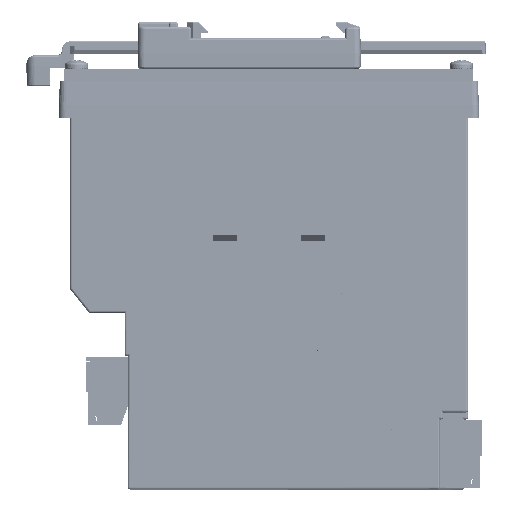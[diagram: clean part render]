
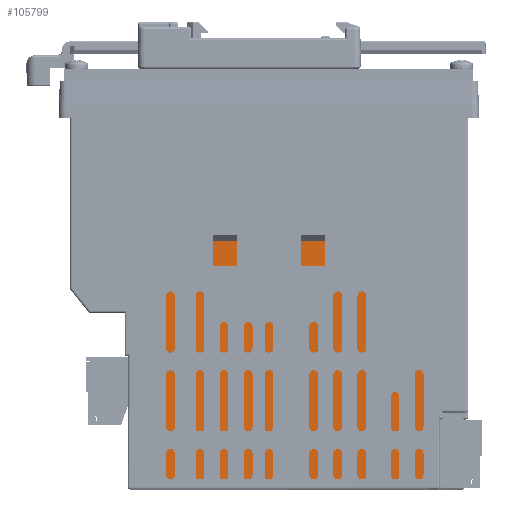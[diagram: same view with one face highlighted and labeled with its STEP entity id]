
A CAD part, left-side view. The second image highlights one B-rep face of the part: STEP entity #105799.
In plain terms, the highlighted planar face has unit normal (-1, 0, 0).
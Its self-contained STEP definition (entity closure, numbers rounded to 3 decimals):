
#1523 = DIRECTION ( 'NONE',  ( 0., 0., -1. ) ) ;
#8101 = DIRECTION ( 'NONE',  ( 0., 0., 1. ) ) ;
#11863 = LINE ( 'NONE', #353719, #304630 ) ;
#14561 = EDGE_CURVE ( 'NONE', #196082, #154637, #125190, .T. ) ;
#17390 = LINE ( 'NONE', #113113, #162722 ) ;
#18962 = EDGE_CURVE ( 'NONE', #121656, #116856, #356684, .T. ) ;
#36503 = VECTOR ( 'NONE', #364513, 1000. ) ;
#38384 = DIRECTION ( 'NONE',  ( 0., 0., 1. ) ) ;
#40636 = CARTESIAN_POINT ( 'NONE',  ( -60.247, 46.483, 104. ) ) ;
#42519 = EDGE_CURVE ( 'NONE', #63957, #85823, #362517, .T. ) ;
#58323 = ORIENTED_EDGE ( 'NONE', *, *, #14561, .F. ) ;
#58483 = VERTEX_POINT ( 'NONE', #112887 ) ;
#58495 = ORIENTED_EDGE ( 'NONE', *, *, #120256, .F. ) ;
#59307 = DIRECTION ( 'NONE',  ( 0., 0., -1. ) ) ;
#62522 = CARTESIAN_POINT ( 'NONE',  ( -60.247, 34.483, 48. ) ) ;
#63957 = VERTEX_POINT ( 'NONE', #85084 ) ;
#68140 = CARTESIAN_POINT ( 'NONE',  ( -60.247, 34.483, 58.9 ) ) ;
#73358 = VECTOR ( 'NONE', #8101, 1000. ) ;
#85084 = CARTESIAN_POINT ( 'NONE',  ( -60.247, 33.033, 48. ) ) ;
#85823 = VERTEX_POINT ( 'NONE', #62522 ) ;
#86680 = EDGE_CURVE ( 'NONE', #116856, #189448, #373787, .T. ) ;
#89512 = EDGE_CURVE ( 'NONE', #154637, #121656, #145066, .T. ) ;
#94704 = DIRECTION ( 'NONE',  ( 0., 0., 1. ) ) ;
#102015 = ORIENTED_EDGE ( 'NONE', *, *, #42519, .F. ) ;
#105799 = ADVANCED_FACE ( 'NONE', ( #364761 ), #175794, .F. ) ;
#108242 = VERTEX_POINT ( 'NONE', #311868 ) ;
#109105 = DIRECTION ( 'NONE',  ( 0., 1., 0. ) ) ;
#110004 = VECTOR ( 'NONE', #207310, 1000. ) ;
#112887 = CARTESIAN_POINT ( 'NONE',  ( -60.247, 33.033, 17.7 ) ) ;
#113113 = CARTESIAN_POINT ( 'NONE',  ( -60.247, 33.033, 17.7 ) ) ;
#114459 = CARTESIAN_POINT ( 'NONE',  ( -60.247, 34.483, 48. ) ) ;
#116856 = VERTEX_POINT ( 'NONE', #200810 ) ;
#117662 = CARTESIAN_POINT ( 'NONE',  ( -60.247, 46.483, 62.557 ) ) ;
#119724 = CARTESIAN_POINT ( 'NONE',  ( -60.247, -33.647, 17.7 ) ) ;
#120256 = EDGE_CURVE ( 'NONE', #58483, #63957, #11863, .T. ) ;
#120717 = DIRECTION ( 'NONE',  ( 1., 0., 0. ) ) ;
#121656 = VERTEX_POINT ( 'NONE', #281140 ) ;
#121791 = CARTESIAN_POINT ( 'NONE',  ( -60.247, -40.517, 104. ) ) ;
#125190 = LINE ( 'NONE', #312123, #148987 ) ;
#126026 = AXIS2_PLACEMENT_3D ( 'NONE', #187851, #120717, #307676 ) ;
#143751 = EDGE_CURVE ( 'NONE', #85823, #172962, #318298, .T. ) ;
#145066 = LINE ( 'NONE', #238494, #389289 ) ;
#148987 = VECTOR ( 'NONE', #249083, 1000. ) ;
#154406 = CARTESIAN_POINT ( 'NONE',  ( -60.247, 34.483, 58.9 ) ) ;
#154637 = VERTEX_POINT ( 'NONE', #121791 ) ;
#162722 = VECTOR ( 'NONE', #109105, 1000. ) ;
#163221 = EDGE_LOOP ( 'NONE', ( #346535, #369292, #222943, #220602, #102015, #58495, #171717, #168201, #181900, #322571, #58323 ) ) ;
#168201 = ORIENTED_EDGE ( 'NONE', *, *, #86680, .F. ) ;
#171717 = ORIENTED_EDGE ( 'NONE', *, *, #185310, .F. ) ;
#172962 = VERTEX_POINT ( 'NONE', #154406 ) ;
#175794 = PLANE ( 'NONE',  #126026 ) ;
#178646 = CARTESIAN_POINT ( 'NONE',  ( -60.247, 46.483, 104. ) ) ;
#181760 = VECTOR ( 'NONE', #389091, 1000. ) ;
#181900 = ORIENTED_EDGE ( 'NONE', *, *, #18962, .F. ) ;
#185310 = EDGE_CURVE ( 'NONE', #189448, #58483, #17390, .T. ) ;
#187851 = CARTESIAN_POINT ( 'NONE',  ( -60.247, 0., 0. ) ) ;
#188947 = EDGE_CURVE ( 'NONE', #220441, #196082, #193535, .T. ) ;
#189448 = VERTEX_POINT ( 'NONE', #215819 ) ;
#193535 = LINE ( 'NONE', #40636, #73358 ) ;
#196082 = VERTEX_POINT ( 'NONE', #178646 ) ;
#197603 = CARTESIAN_POINT ( 'NONE',  ( -60.247, 46.483, 62.557 ) ) ;
#197932 = LINE ( 'NONE', #380779, #272595 ) ;
#199336 = EDGE_CURVE ( 'NONE', #172962, #108242, #197932, .T. ) ;
#200810 = CARTESIAN_POINT ( 'NONE',  ( -60.247, -33.647, 35.6 ) ) ;
#207310 = DIRECTION ( 'NONE',  ( 0., 0.628, 0.778 ) ) ;
#215819 = CARTESIAN_POINT ( 'NONE',  ( -60.247, -33.647, 17.7 ) ) ;
#220441 = VERTEX_POINT ( 'NONE', #197603 ) ;
#220602 = ORIENTED_EDGE ( 'NONE', *, *, #143751, .F. ) ;
#222055 = VECTOR ( 'NONE', #1523, 1000. ) ;
#222943 = ORIENTED_EDGE ( 'NONE', *, *, #199336, .F. ) ;
#238494 = CARTESIAN_POINT ( 'NONE',  ( -60.247, -40.517, 35.6 ) ) ;
#249083 = DIRECTION ( 'NONE',  ( 0., -1., 0. ) ) ;
#252678 = DIRECTION ( 'NONE',  ( 0., 1., 0. ) ) ;
#272595 = VECTOR ( 'NONE', #252678, 1000. ) ;
#281140 = CARTESIAN_POINT ( 'NONE',  ( -60.247, -40.517, 35.6 ) ) ;
#304630 = VECTOR ( 'NONE', #38384, 1000. ) ;
#306927 = VECTOR ( 'NONE', #94704, 1000. ) ;
#307676 = DIRECTION ( 'NONE',  ( 0., 0., -1. ) ) ;
#311868 = CARTESIAN_POINT ( 'NONE',  ( -60.247, 43.531, 58.9 ) ) ;
#312123 = CARTESIAN_POINT ( 'NONE',  ( -60.247, -40.517, 104. ) ) ;
#318298 = LINE ( 'NONE', #68140, #306927 ) ;
#322571 = ORIENTED_EDGE ( 'NONE', *, *, #89512, .F. ) ;
#326127 = CARTESIAN_POINT ( 'NONE',  ( -60.247, -33.647, 35.6 ) ) ;
#346535 = ORIENTED_EDGE ( 'NONE', *, *, #188947, .F. ) ;
#353719 = CARTESIAN_POINT ( 'NONE',  ( -60.247, 33.033, 80.8 ) ) ;
#356684 = LINE ( 'NONE', #326127, #181760 ) ;
#359755 = LINE ( 'NONE', #117662, #110004 ) ;
#362517 = LINE ( 'NONE', #114459, #36503 ) ;
#364513 = DIRECTION ( 'NONE',  ( 0., 1., 0. ) ) ;
#364761 = FACE_OUTER_BOUND ( 'NONE', #163221, .T. ) ;
#369292 = ORIENTED_EDGE ( 'NONE', *, *, #390788, .F. ) ;
#373787 = LINE ( 'NONE', #119724, #222055 ) ;
#380779 = CARTESIAN_POINT ( 'NONE',  ( -60.247, 43.531, 58.9 ) ) ;
#389091 = DIRECTION ( 'NONE',  ( 0., 1., 0. ) ) ;
#389289 = VECTOR ( 'NONE', #59307, 1000. ) ;
#390788 = EDGE_CURVE ( 'NONE', #108242, #220441, #359755, .T. ) ;
